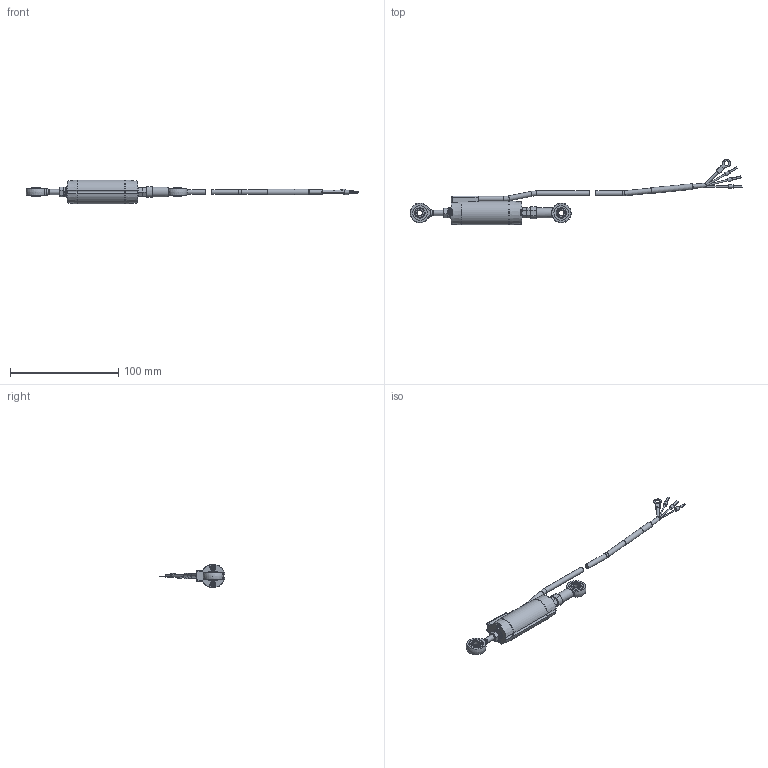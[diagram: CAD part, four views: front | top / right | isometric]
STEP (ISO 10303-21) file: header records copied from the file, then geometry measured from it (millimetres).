
FILE_DESCRIPTION(/* description */ (''),/* implementation_level */ '2;1');
FILE_NAME(/* name */ 'C:\Users\JN\Documents\CAD Drawings\The Sensor Connection\3D\LPPS\LPPS-22 Series\LPPS-22-010\LPPS-22-010.stp',/* time_stamp */ '2018-01-05T11:19:07-05:00',/* author */ ('JN'),/* organization */ (''),/* preprocessor_version */ 'ST-DEVELOPER v15.6',/* originating_system */ 'Autodesk Inventor 2015',/* authorisation */ '');
FILE_SCHEMA (('AUTOMOTIVE_DESIGN { 1 0 10303 214 3 1 1 }'));
Length unit declared in the file: inch
Products named in the file (21): Body_LPPS-22-010; End_sr; Seal; End; Male_rod_end; 91202A230_5_lock; 90591A146_5_hex; 91166A240_5_wash; Rod_LPPS-22-010; Backstop; Female_rod_end; Frontstop; Cable; Cable2; Shrink; Terminal; Brown_pin; Blue_pin; Black_pin; 92005A033_2mm_10mm; LPPS-22-010
Assembly tree (26 placements, depth 2):
  LPPS-22-010
    Body_LPPS-22-010
    End_sr
    Seal  x2
    End
    Male_rod_end
    91202A230_5_lock
    90591A146_5_hex  x3
    91166A240_5_wash
    Rod_LPPS-22-010
    Backstop
    Female_rod_end
    Frontstop
    Cable
    Cable2
    Shrink
    Terminal
    Brown_pin
    Blue_pin
    Black_pin
    92005A033_2mm_10mm  x4
Bounding box: 306.05 x 60.43 x 21.96 mm (x, y, z)
Volume: 29729.2 mm3; surface area: 25965.8 mm2
Topology: 30 solids, 30 shells, 557 faces, 2336 edges, 1843 vertices
Faces by surface type: plane 202, cylinder 153, cone 138, bspline 28, torus 22, sphere 14
Full cylindrical faces by diameter (mm): 1.27 x3, 1.575 x2, 2.286 x5, 3.175 x5, 3.81 x1, 3.881 x1, 4 x4, 4.134 x1, 4.191 x1, 4.342 x12, 4.572 x5, 4.826 x3, 4.851 x1, 4.953 x1, 5 x15, 5.004 x2, 5.08 x1, 5.207 x1, 5.3 x1, 6.35 x2, 9.144 x1, 10 x1, 12.675 x4, 12.7 x1, 15.875 x2, 17.78 x1
Entity records: 16284 total; most frequent: CARTESIAN_POINT 7317, ORIENTED_EDGE 1840, DIRECTION 1651, EDGE_CURVE 920, VERTEX_POINT 736, AXIS2_PLACEMENT_3D 730, EDGE_LOOP 514, ADVANCED_FACE 353
